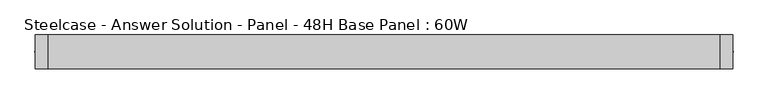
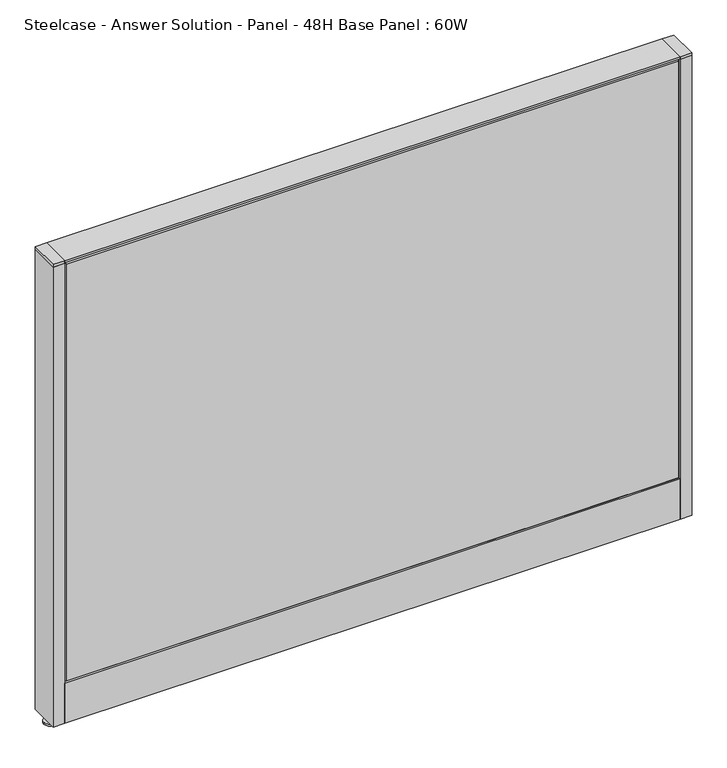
"""IFC4 building model written with IfcOpenShell, lengths in millimetres: furniture geometry, Steelcase - Answer Solution - Panel - 48H Base Panel : 60W."""

import ifcopenshell
import ifcopenshell.guid

model = None  # the IFC model being written
_history = None  # IfcOwnerHistory: only IFC2X3 demands one
_inside = {}  # id of a spatial element -> (the spatial element, [elements in it])
_under = {}  # id of a project, library or spatial element -> (it, [spatial elements below it])
_declared = {}  # id of a project -> (the project, [libraries it declares])
_typed = {}  # id of a type object -> (the type object, [elements of that type])
_made_of = {}  # id of a material, layer set ... -> (it, [elements and type objects made of it])


def new_model(schema):
    """Start an empty IFC model of exactly this schema.

    Asked for "IFC4X3", IfcOpenShell would pick the latest addendum, in which some entities
    have other attributes; the version numbers below select the first issue.
    IFC2X3 requires an IfcOwnerHistory on every rooted entity: one is made here for all.
    """
    global model, _history
    if schema == "IFC4X3":
        model = ifcopenshell.file(schema_version=(4, 3, 0, 0))
    else:
        model = ifcopenshell.file(schema=schema)
    _inside.clear()
    _under.clear()
    _declared.clear()
    _typed.clear()
    _made_of.clear()
    _history = None
    if model.schema == "IFC2X3":
        org = make("IfcOrganization", Name="unknown")
        user = make(
            "IfcPersonAndOrganization",
            ThePerson=make("IfcPerson", FamilyName="unknown"),
            TheOrganization=org,
        )
        app = make(
            "IfcApplication",
            ApplicationDeveloper=org,
            Version="unknown",
            ApplicationFullName="unknown",
            ApplicationIdentifier="unknown",
        )
        _history = make(
            "IfcOwnerHistory",
            OwningUser=user,
            OwningApplication=app,
            ChangeAction="ADDED",
            CreationDate=0,
        )
    return model


def make(cls, **values):
    """One entity of the class cls with the attributes given. An attribute that is None is left unset."""
    return model.create_entity(
        cls, **{name: value for name, value in values.items() if value is not None}
    )


def rooted(cls, **values):
    """An entity with a GlobalId (a new one), such as an element, a storey or a relation."""
    return make(cls, GlobalId=ifcopenshell.guid.new(), OwnerHistory=_history, **values)


def si_unit(unit_type, name, prefix=None):
    """IfcSIUnit, for example si_unit("LENGTHUNIT", "METRE", prefix="MILLI")."""
    return make("IfcSIUnit", UnitType=unit_type, Prefix=prefix, Name=name)


def assignment(units):
    """IfcUnitAssignment: the units of a project."""
    return None if units is None else make("IfcUnitAssignment", Units=units)


def point(xyz):
    """IfcCartesianPoint."""
    return None if xyz is None else make("IfcCartesianPoint", Coordinates=xyz)


def direction(xyz):
    """IfcDirection."""
    return None if xyz is None else make("IfcDirection", DirectionRatios=xyz)


def frame(location, z_axis=None, x_axis=None):
    """IfcAxis2Placement3D, a coordinate frame: its origin and axes. An axis left out is left unset."""
    return make(
        "IfcAxis2Placement3D",
        Location=point(location),
        Axis=direction(z_axis),
        RefDirection=direction(x_axis),
    )


def frame_2d(location, x_axis=None):
    """IfcAxis2Placement2D, a coordinate frame in the plane: its origin and x axis."""
    return make(
        "IfcAxis2Placement2D", Location=point(location), RefDirection=direction(x_axis)
    )


def origin():
    """The frame at (0, 0, 0) with its axes left unset."""
    return frame((0.0, 0.0, 0.0))


def place(relative_to, where):
    """IfcLocalPlacement: puts the frame where relative to a parent placement (None: the world)."""
    return make(
        "IfcLocalPlacement", PlacementRelTo=relative_to, RelativePlacement=where
    )


def context(
    kind, dimensions, precision=None, world=None, true_north=None, identifier=None
):
    """IfcGeometricRepresentationContext, for example the 3D "Model" context."""
    return make(
        "IfcGeometricRepresentationContext",
        ContextIdentifier=identifier,
        ContextType=kind,
        CoordinateSpaceDimension=dimensions,
        Precision=precision,
        WorldCoordinateSystem=world,
        TrueNorth=true_north,
    )


def project(units=None, contexts=None):
    """IfcProject with its units and contexts."""
    return rooted(
        "IfcProject",
        Name="project",
        RepresentationContexts=contexts,
        UnitsInContext=assignment(units),
    )


def spatial(cls, under=None, at=None, **own):
    """A site, building, storey or space (cls), placed at a placement, below another one or the project."""
    s = rooted(cls, ObjectPlacement=at, **own)
    if under is not None:
        _under.setdefault(under.id(), (under, []))[1].append(s)
    return s


def polyline(points):
    """IfcPolyline through the points."""
    return make("IfcPolyline", Points=[point(p) for p in points])


def circle_curve(where, radius):
    """IfcCircle in the frame where."""
    return make("IfcCircle", Position=where, Radius=radius)


def trimmed(basis, trim1, trim2, sense, master):
    """IfcTrimmedCurve: the piece of a basis curve between two trims."""
    return make(
        "IfcTrimmedCurve",
        BasisCurve=basis,
        Trim1=trim1,
        Trim2=trim2,
        SenseAgreement=sense,
        MasterRepresentation=master,
    )


def segment(curve, same_sense, transition):
    """IfcCompositeCurveSegment."""
    return make(
        "IfcCompositeCurveSegment",
        Transition=transition,
        SameSense=same_sense,
        ParentCurve=curve,
    )


def composite_curve(segments, self_intersect=None):
    """IfcCompositeCurve: segments joined end to end."""
    return make("IfcCompositeCurve", Segments=segments, SelfIntersect=self_intersect)


def outline(outer, holes=None, kind="AREA"):
    """IfcArbitraryClosedProfileDef: a profile drawn as a closed curve; with holes, ...WithVoids."""
    if holes is None:
        return make("IfcArbitraryClosedProfileDef", ProfileType=kind, OuterCurve=outer)
    return make(
        "IfcArbitraryProfileDefWithVoids",
        ProfileType=kind,
        OuterCurve=outer,
        InnerCurves=holes,
    )


def extrude(swept, where, along, depth):
    """IfcExtrudedAreaSolid: the profile swept, set in the frame where, extruded along a direction by depth."""
    return make(
        "IfcExtrudedAreaSolid",
        SweptArea=swept,
        Position=where,
        ExtrudedDirection=direction(along),
        Depth=depth,
    )


def faces_of(points, faces, orient=None, outer=None):
    """IfcFace entities. A face is a list of loops; a loop is a list of indices into points, from 0.

    orient and outer hold one flag for each loop. By default every Orientation is true, the
    first loop of a face is its IfcFaceOuterBound and the others are IfcFaceBound.
    """
    made = []
    for i, loops in enumerate(faces):
        bounds = []
        for j, loop in enumerate(loops):
            is_outer = j == 0 if outer is None else outer[i][j]
            bounds.append(
                make(
                    "IfcFaceOuterBound" if is_outer else "IfcFaceBound",
                    Bound=make("IfcPolyLoop", Polygon=[points[k] for k in loop]),
                    Orientation=True if orient is None else orient[i][j],
                )
            )
        made.append(make("IfcFace", Bounds=bounds))
    return made


def faceted_brep(points, faces, orient=None, outer=None, voids=None):
    """IfcFacetedBrep: a solid bounded by flat faces; with voids (closed shells), ...WithVoids."""
    shared = [point(p) for p in points]
    hull = make("IfcClosedShell", CfsFaces=faces_of(shared, faces, orient, outer))
    if voids is None:
        return make("IfcFacetedBrep", Outer=hull)
    return make(
        "IfcFacetedBrepWithVoids",
        Outer=hull,
        Voids=[
            make(cls, CfsFaces=faces_of(shared, fs, o, b)) for cls, fs, o, b in voids
        ],
    )


def shape(context_of_items, identifier, shape_type, items):
    """IfcShapeRepresentation: the items that make up one representation, for example the "Body"."""
    return make(
        "IfcShapeRepresentation",
        ContextOfItems=context_of_items,
        RepresentationIdentifier=identifier,
        RepresentationType=shape_type,
        Items=items,
    )


def source(mapping_origin, context_of_items, identifier, shape_type, items):
    """IfcRepresentationMap: a shape defined once, which mapped items show again and again."""
    return make(
        "IfcRepresentationMap",
        MappingOrigin=mapping_origin,
        MappedRepresentation=shape(context_of_items, identifier, shape_type, items),
    )


def transform(
    local_origin,
    x_axis=None,
    y_axis=None,
    z_axis=None,
    scale=None,
    scale2=None,
    scale3=None,
    uniform=True,
):
    """IfcCartesianTransformationOperator3D, or its non-uniform kind. x_axis, y_axis, z_axis: its Axis1, 2, 3."""
    if uniform:
        return make(
            "IfcCartesianTransformationOperator3D",
            Axis1=direction(x_axis),
            Axis2=direction(y_axis),
            LocalOrigin=point(local_origin),
            Scale=scale,
            Axis3=direction(z_axis),
        )
    return make(
        "IfcCartesianTransformationOperator3DnonUniform",
        Axis1=direction(x_axis),
        Axis2=direction(y_axis),
        LocalOrigin=point(local_origin),
        Scale=scale,
        Axis3=direction(z_axis),
        Scale2=scale2,
        Scale3=scale3,
    )


def mapped(mapping_source, mapping_target):
    """IfcMappedItem: shows the shape of a source again, moved by a transform."""
    return make(
        "IfcMappedItem", MappingSource=mapping_source, MappingTarget=mapping_target
    )


def made_of(thing, what):
    """Note that an element or type object is made of a material, layer set ...; save() writes the relation."""
    if what is not None:
        _made_of.setdefault(what.id(), (what, []))[1].append(thing)
    return thing


def element(
    cls,
    number,
    at=None,
    inside=None,
    cuts=None,
    type_object=None,
    material=None,
    context=None,
    identifier="Body",
    shape_type=None,
    held_by="IfcProductDefinitionShape",
    body=None,
    shapes=None,
    **own,
):
    """One element of the class cls, such as IfcWall. Its Tag is "e" and its number.

    at: its placement. inside: the storey or other place that contains it. cuts: it is an
    opening in that element (IfcRelVoidsElement). A single representation is given by context,
    identifier, shape_type and body (its items); several are given by shapes. held_by: the class
    of the entity that holds the representations. save() writes the other relations.
    """
    e = rooted(cls, Tag="e%d" % number, ObjectPlacement=at, **own)
    if body is not None:
        shapes = [shape(context, identifier, shape_type, body)]
    if shapes is not None:
        e.Representation = make(held_by, Representations=shapes)
    if inside is not None:
        _inside.setdefault(inside.id(), (inside, []))[1].append(e)
    if cuts is not None:
        rooted(
            "IfcRelVoidsElement", RelatingBuildingElement=cuts, RelatedOpeningElement=e
        )
    if type_object is not None:
        _typed.setdefault(type_object.id(), (type_object, []))[1].append(e)
    return made_of(e, material)


def aggregate(whole, parts):
    """IfcRelAggregates: a whole, such as a stair, and the parts it consists of."""
    return rooted("IfcRelAggregates", RelatingObject=whole, RelatedObjects=parts)


def save(model, path):
    """Write the relations noted so far, then the file.

    IfcRelAggregates (storeys below a building ...), IfcRelContainedInSpatialStructure (elements
    in a storey), IfcRelDefinesByType, IfcRelAssociatesMaterial and IfcRelDeclares: one each for
    every whole, place, type object, material and project.
    """
    for whole, parts in _under.values():
        aggregate(whole, parts)
    for where, things in _inside.values():
        rooted(
            "IfcRelContainedInSpatialStructure",
            RelatedElements=things,
            RelatingStructure=where,
        )
    for kind, things in _typed.values():
        rooted("IfcRelDefinesByType", RelatedObjects=things, RelatingType=kind)
    for what, things in _made_of.values():
        rooted("IfcRelAssociatesMaterial", RelatedObjects=things, RelatingMaterial=what)
    for by, libraries in _declared.values():
        rooted("IfcRelDeclares", RelatingContext=by, RelatedDefinitions=libraries)
    model.write(path)


def steelcase_answer_solution_panel_48h_base_panel_60w_dc4cf231(model_context):
    return source(origin(), model_context, "Body", "SolidModel", [
        extrude(outline(composite_curve([segment(trimmed(circle_curve(frame_2d((776.224, 0.0320214)), 5.08), [point((781.304, 0.0320214))], [point((771.144, 0.0320214))], False, "CARTESIAN"), True, "CONTINUOUS"), segment(trimmed(circle_curve(frame_2d((776.224, 0.0320214)), 5.08), [point((771.144, 0.0320214))], [point((781.304, 0.0320214))], False, "CARTESIAN"), True, "CONTINUOUS")], self_intersect=False)), frame((0.0, 0.0, 5.0799671), z_axis=(0.0, 0.0, 1.0), x_axis=(1.0, 0.0, 0.0)), (0.0, 0.0, 1.0), 10.414),
        extrude(outline(composite_curve([segment(trimmed(circle_curve(frame_2d((776.224, 0.0320214)), 15.24), [point((791.464, 0.0320214))], [point((760.984, 0.0320214))], False, "CARTESIAN"), True, "CONTINUOUS"), segment(trimmed(circle_curve(frame_2d((776.224, 0.0320214)), 15.24), [point((760.984, 0.0320214))], [point((791.464, 0.0320214))], False, "CARTESIAN"), True, "CONTINUOUS")], self_intersect=False)), frame((0.0, 0.0, -3.29e-05), z_axis=(0.0, 0.0, 1.0), x_axis=(1.0, 0.0, 0.0)), (0.0, 0.0, 1.0), 5.08),
        extrude(outline(polyline([(790.575, 38.1320408), (790.575, -38.0679592), (762.0, -38.0679592), (762.0, 38.1320408), (790.575, 38.1320408)])), frame((0.0, 0.0, 1218.2348), z_axis=(0.0, 0.0, 1.0), x_axis=(1.0, 0.0, 0.0)), (0.0, 0.0, 1.0), 7.3151671),
        extrude(outline(polyline([(790.575, 38.1320408), (790.575, -38.0679592), (762.0, -38.0679592), (762.0, 38.1320408), (790.575, 38.1320408)])), frame((0.0, 0.0, 15.4939671), z_axis=(0.0, 0.0, 1.0), x_axis=(1.0, 0.0, 0.0)), (0.0, 0.0, 1.0), 1202.7408329),
        extrude(outline(composite_curve([segment(trimmed(circle_curve(frame_2d((-776.224, 0.0320214)), 5.08), [point((-781.304, 0.0320214))], [point((-771.144, 0.0320214))], False, "CARTESIAN"), True, "CONTINUOUS"), segment(trimmed(circle_curve(frame_2d((-776.224, 0.0320214)), 5.08), [point((-771.144, 0.0320214))], [point((-781.304, 0.0320214))], False, "CARTESIAN"), True, "CONTINUOUS")], self_intersect=False)), frame((0.0, 0.0, 5.0799671), z_axis=(0.0, 0.0, 1.0), x_axis=(1.0, 0.0, 0.0)), (0.0, 0.0, 1.0), 10.414),
        extrude(outline(composite_curve([segment(trimmed(circle_curve(frame_2d((-776.224, 0.0320214)), 15.24), [point((-791.464, 0.0320214))], [point((-760.984, 0.0320214))], False, "CARTESIAN"), True, "CONTINUOUS"), segment(trimmed(circle_curve(frame_2d((-776.224, 0.0320214)), 15.24), [point((-760.984, 0.0320214))], [point((-791.464, 0.0320214))], False, "CARTESIAN"), True, "CONTINUOUS")], self_intersect=False)), frame((0.0, 0.0, -3.29e-05), z_axis=(0.0, 0.0, 1.0), x_axis=(1.0, 0.0, 0.0)), (0.0, 0.0, 1.0), 5.08),
        extrude(outline(polyline([(-790.575, 38.1320408), (-762.0, 38.1320408), (-762.0, -38.0679592), (-790.575, -38.0679592), (-790.575, 38.1320408)])), frame((0.0, 0.0, 1218.2348), z_axis=(0.0, 0.0, 1.0), x_axis=(1.0, 0.0, 0.0)), (0.0, 0.0, 1.0), 7.3151671),
        extrude(outline(polyline([(-790.575, 38.1320408), (-762.0, 38.1320408), (-762.0, -38.0679592), (-790.575, -38.0679592), (-790.575, 38.1320408)])), frame((0.0, 0.0, 15.4939671), z_axis=(0.0, 0.0, 1.0), x_axis=(1.0, 0.0, 0.0)), (0.0, 0.0, 1.0), 1202.7408329),
        faceted_brep([(-757.174, 38.1635011, 1214.374), (757.174, 38.1635011, 1214.374), (757.174, 38.1635011, 125.476), (-757.174, 38.1635011, 125.476), (-762.0, 33.3375011, 1219.2), (-762.0, 33.3375011, 120.65), (762.0, 33.3375011, 120.65), (762.0, 33.3375011, 1219.2)], [[[0, 1, 2, 3]], [[4, 5, 6, 7]], [[4, 7, 1, 0]], [[7, 6, 2, 1]], [[6, 5, 3, 2]], [[5, 4, 0, 3]]]),
        faceted_brep([(757.174, -38.1635011, 1214.374), (-757.174, -38.1635011, 1214.374), (-757.174, -38.1635011, 125.476), (757.174, -38.1635011, 125.476), (762.0, -33.3375011, 1219.2), (762.0, -33.3375011, 120.65), (-762.0, -33.3375011, 120.65), (-762.0, -33.3375011, 1219.2)], [[[0, 1, 2, 3]], [[4, 5, 6, 7]], [[4, 7, 1, 0]], [[7, 6, 2, 1]], [[6, 5, 3, 2]], [[5, 4, 0, 3]]]),
        extrude(outline(polyline([(762.0, 38.1000194), (762.0, -38.1000194), (-762.0, -38.1000194), (-762.0, 38.1000194), (762.0, 38.1000194)])), frame((0.0, 0.0, 1219.2), z_axis=(0.0, 0.0, 1.0), x_axis=(1.0, 0.0, 0.0)), (0.0, 0.0, 1.0), 6.35),
        extrude(outline(polyline([(25.4000011, 119.8575157), (25.4000011, 120.65), (38.1000194, 120.65), (38.1000194, 15.494), (37.3075215, 15.494), (37.3075215, 119.8575157), (25.4000011, 119.8575157)])), frame((-762.0, 0.0, 0.0), z_axis=(1.0, 0.0, 0.0), x_axis=(0.0, 1.0, 0.0)), (0.0, 0.0, 1.0), 1524.0),
        extrude(outline(polyline([(-25.4000011, 119.8575157), (-37.3075215, 119.8575157), (-37.3075215, 15.494), (-38.1000194, 15.494), (-38.1000194, 120.65), (-25.4000011, 120.65), (-25.4000011, 119.8575157)])), frame((-762.0, 0.0, 0.0), z_axis=(1.0, 0.0, 0.0), x_axis=(0.0, 1.0, 0.0)), (0.0, 0.0, 1.0), 1524.0),
    ])


if __name__ == "__main__":
    model = new_model("IFC4")
    model_context = context("Model", 3, world=origin())
    ifc_project = project(units=[si_unit("LENGTHUNIT", "METRE", prefix="MILLI")], contexts=[model_context])
    site = spatial("IfcSite", under=ifc_project)
    building = spatial("IfcBuilding", under=site)
    placement = place(None, origin())
    steelcase_answer_solution_panel_48h_base_panel_60w_shape = steelcase_answer_solution_panel_48h_base_panel_60w_dc4cf231(model_context)
    element("IfcFurniture", 1, ObjectType="Steelcase - Answer Solution - Panel - 48H Base Panel : 60W", at=placement, inside=building, context=model_context, shape_type="MappedRepresentation", body=[
        mapped(steelcase_answer_solution_panel_48h_base_panel_60w_shape, transform((0.0, 0.0, 0.0), x_axis=(1.0, 0.0, 0.0), y_axis=(0.0, 1.0, 0.0), z_axis=(0.0, 0.0, 1.0))),
    ])
    save(model, "model.ifc")
